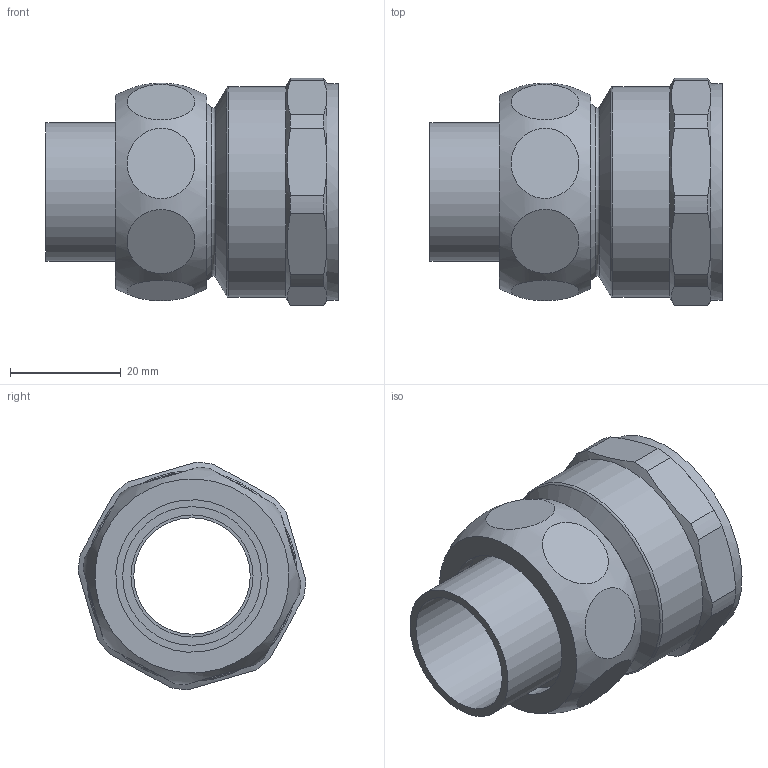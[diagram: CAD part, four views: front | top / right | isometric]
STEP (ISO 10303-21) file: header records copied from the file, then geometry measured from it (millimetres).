
FILE_DESCRIPTION(/* description */ (''),/* implementation_level */ '2;1');
FILE_NAME(/* name */ '\\lg50001\SANHA_Legnica\Engineering\Public\RYSUNKI\SANHA POLSKA\4340G\STP\14340221.stp',/* time_stamp */ '2016-02-04T08:30:05+01:00',/* author */ ('gomulka'),/* organization */ (''),/* preprocessor_version */ 'ST-DEVELOPER v15.6',/* originating_system */ 'Autodesk Inventor 2015',/* authorisation */ '');
FILE_SCHEMA (('AUTOMOTIVE_DESIGN { 1 0 10303 214 3 1 1 }'));
Length unit declared in the file: millimetre
Products named in the file (4): 14381_22-1(3); 14380g_1-1(1); 14374_1; 14340221
Assembly tree (3 placements, depth 2):
  14340221
    14381_22-1(3)
    14380g_1-1(1)
    14374_1
Bounding box: 52.66 x 40.98 x 40.98 mm (x, y, z)
Volume: 24178.4 mm3; surface area: 15995.9 mm2
Topology: 3 solids, 3 shells, 65 faces, 141 edges, 92 vertices
Faces by surface type: plane 25, cylinder 20, cone 16, torus 3, bspline 1
Full cylindrical faces by diameter (mm): 21 x1, 22 x2, 25 x1, 27.5 x2, 29.5 x1, 30.291 x2, 33.249 x1, 38 x1, 39 x1
Entity records: 2212 total; most frequent: CARTESIAN_POINT 838, DIRECTION 274, ORIENTED_EDGE 236, AXIS2_PLACEMENT_3D 129, EDGE_CURVE 118, EDGE_LOOP 104, VERTEX_POINT 92, FACE_OUTER_BOUND 65
